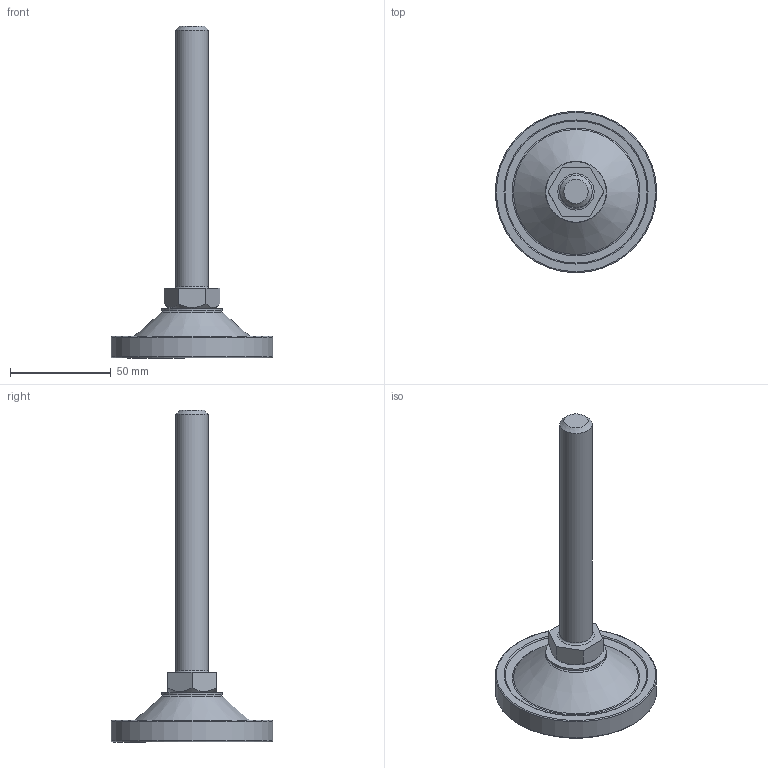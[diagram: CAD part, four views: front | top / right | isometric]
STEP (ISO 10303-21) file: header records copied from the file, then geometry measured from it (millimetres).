
FILE_DESCRIPTION(/* description */ (''),/* implementation_level */ '2;1');
FILE_NAME(/* name */ 'D:\조절자\PFR\PFR-M16-130L.stp',/* time_stamp */ '2016-03-14T15:07:26+09:00',/* author */ ('GS-DT-1-001'),/* organization */ (''),/* preprocessor_version */ 'ST-DEVELOPER v15.6',/* originating_system */ 'Autodesk Inventor LT ',/* authorisation */ '');
FILE_SCHEMA (('AUTOMOTIVE_DESIGN { 1 0 10303 214 3 1 1 }'));
Length unit declared in the file: millimetre
Products named in the file (1): PFR-M16-130L
Bounding box: 80 x 80 x 164.5 mm (x, y, z)
Volume: 77450.6 mm3; surface area: 36396.6 mm2
Topology: 5 solids, 5 shells, 76 faces, 137 edges, 83 vertices
Faces by surface type: plane 28, torus 24, cone 14, cylinder 10
Full cylindrical faces by diameter (mm): 6.912 x1, 8 x1, 8.2 x1, 8.3 x1, 16 x2, 30 x1, 74 x1, 74.4 x1, 80 x1
Entity records: 1584 total; most frequent: DIRECTION 298, CARTESIAN_POINT 251, ORIENTED_EDGE 168, AXIS2_PLACEMENT_3D 143, EDGE_LOOP 140, EDGE_CURVE 84, VERTEX_POINT 78, FACE_OUTER_BOUND 76
